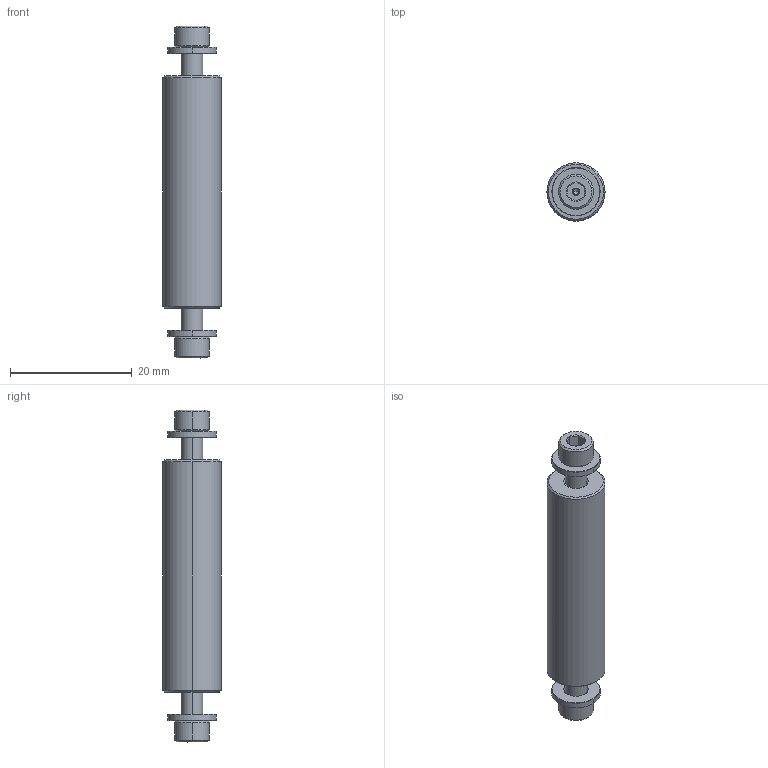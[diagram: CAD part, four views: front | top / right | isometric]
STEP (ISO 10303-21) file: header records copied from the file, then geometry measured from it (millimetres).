
FILE_DESCRIPTION (( 'STEP AP203' ), '1' );
FILE_NAME ('111174.stp', '2018-06-13T18:20:55', ( '' ), ( '' ), 'SwSTEP 2.0', 'SolidWorks 2012', '' );
FILE_SCHEMA (( 'CONFIG_CONTROL_DESIGN' ));
Length unit declared in the file: centimetre
Products named in the file (1): 111174
Bounding box: 9.53 x 9.53 x 54.51 mm (x, y, z)
Volume: 3009.9 mm3; surface area: 1872.6 mm2
Topology: 1 solids, 1 shells, 106 faces, 222 edges, 128 vertices
Faces by surface type: cone 58, plane 26, cylinder 22
Entity records: 2913 total; most frequent: CARTESIAN_POINT 539, DIRECTION 530, ORIENTED_EDGE 436, AXIS2_PLACEMENT_3D 219, EDGE_CURVE 218, VERTEX_POINT 128, EDGE_LOOP 120, CIRCLE 112
